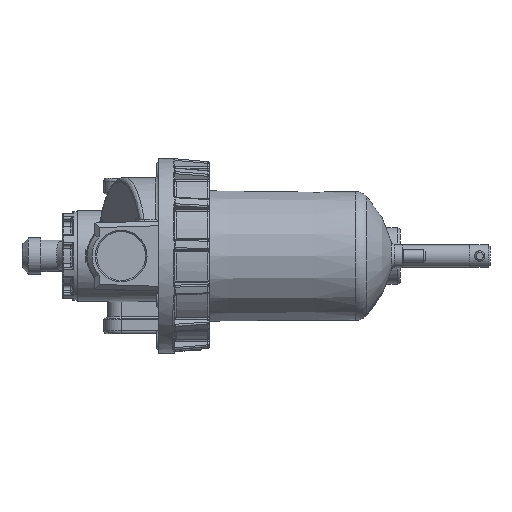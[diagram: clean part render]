
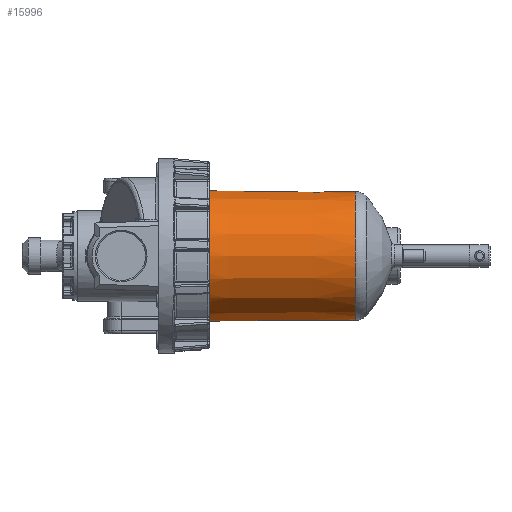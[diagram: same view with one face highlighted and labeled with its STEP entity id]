
A CAD part, left-side view. The second image highlights one B-rep face of the part: STEP entity #15996.
In plain terms, the highlighted conical face has half-angle 0.512 degrees and reference radius 41.5 mm.
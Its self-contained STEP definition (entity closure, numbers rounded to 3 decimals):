
#5331=CARTESIAN_POINT('',(42.0,112.01,0.0));
#5332=VERTEX_POINT('',#5331);
#5333=CARTESIAN_POINT('',(0.,112.01,0.0));
#5334=DIRECTION('',(0.0,-1.0,0.0));
#5335=DIRECTION('',(1.0,0.0,0.0));
#5336=AXIS2_PLACEMENT_3D('',#5333,#5334,#5335);
#5337=CIRCLE('',#5336,42.);
#5338=EDGE_CURVE('',#5332,#5332,#5337,.T.);
#15806=CARTESIAN_POINT('',(41.071,84.01,-7.5));
#15807=VERTEX_POINT('',#15806);
#15816=CARTESIAN_POINT('',(41.071,84.01,7.5));
#15817=VERTEX_POINT('',#15816);
#15818=CARTESIAN_POINT('',(41.071,84.01,7.5));
#15819=CARTESIAN_POINT('',(41.078,84.761,7.5));
#15820=CARTESIAN_POINT('',(41.107,85.551,7.383));
#15821=CARTESIAN_POINT('',(41.156,86.306,7.14));
#15822=CARTESIAN_POINT('',(41.206,87.075,6.893));
#15823=CARTESIAN_POINT('',(41.276,87.809,6.515));
#15824=CARTESIAN_POINT('',(41.35,88.447,6.047));
#15825=CARTESIAN_POINT('',(41.379,88.701,5.861));
#15826=CARTESIAN_POINT('',(41.409,88.939,5.661));
#15827=CARTESIAN_POINT('',(41.439,89.16,5.452));
#15828=CARTESIAN_POINT('',(41.465,89.355,5.268));
#15829=CARTESIAN_POINT('',(41.491,89.539,5.076));
#15830=CARTESIAN_POINT('',(41.516,89.715,4.868));
#15831=CARTESIAN_POINT('',(41.59,90.219,4.278));
#15832=CARTESIAN_POINT('',(41.662,90.649,3.582));
#15833=CARTESIAN_POINT('',(41.716,90.953,2.836));
#15834=CARTESIAN_POINT('',(41.76,91.206,2.219));
#15835=CARTESIAN_POINT('',(41.791,91.374,1.566));
#15836=CARTESIAN_POINT('',(41.806,91.454,0.919));
#15837=CARTESIAN_POINT('',(41.813,91.49,0.624));
#15838=CARTESIAN_POINT('',(41.817,91.509,0.329));
#15839=CARTESIAN_POINT('',(41.817,91.51,0.041));
#15840=CARTESIAN_POINT('',(41.817,91.512,-0.242));
#15841=CARTESIAN_POINT('',(41.815,91.497,-0.529));
#15842=CARTESIAN_POINT('',(41.809,91.466,-0.818));
#15843=CARTESIAN_POINT('',(41.793,91.38,-1.593));
#15844=CARTESIAN_POINT('',(41.753,91.167,-2.38));
#15845=CARTESIAN_POINT('',(41.695,90.836,-3.109));
#15846=CARTESIAN_POINT('',(41.638,90.504,-3.836));
#15847=CARTESIAN_POINT('',(41.564,90.054,-4.507));
#15848=CARTESIAN_POINT('',(41.491,89.538,-5.069));
#15849=CARTESIAN_POINT('',(41.463,89.34,-5.284));
#15850=CARTESIAN_POINT('',(41.435,89.135,-5.484));
#15851=CARTESIAN_POINT('',(41.406,88.912,-5.676));
#15852=CARTESIAN_POINT('',(41.332,88.326,-6.183));
#15853=CARTESIAN_POINT('',(41.256,87.634,-6.616));
#15854=CARTESIAN_POINT('',(41.198,86.89,-6.925));
#15855=CARTESIAN_POINT('',(41.14,86.156,-7.23));
#15856=CARTESIAN_POINT('',(41.099,85.371,-7.415));
#15857=CARTESIAN_POINT('',(41.081,84.605,-7.476));
#15858=CARTESIAN_POINT('',(41.076,84.405,-7.492));
#15859=CARTESIAN_POINT('',(41.073,84.206,-7.5));
#15860=CARTESIAN_POINT('',(41.071,84.01,-7.5));
#15861=B_SPLINE_CURVE_WITH_KNOTS('',3,(#15818,#15819,#15820,#15821,#15822,#15823,#15824,#15825,#15826,#15827,#15828,#15829,#15830,#15831,#15832,#15833,#15834,#15835,#15836,#15837,#15838,#15839,#15840,#15841,#15842,#15843,#15844,#15845,#15846,#15847,#15848,#15849,#15850,#15851,#15852,#15853,#15854,#15855,#15856,#15857,#15858,#15859,#15860),.UNSPECIFIED.,.F.,.U.,(4,3,3,3,3,3,3,3,3,3,3,3,3,3,4),(0.001,0.226,0.456,0.546,0.627,0.855,1.044,1.13,1.215,1.442,1.668,1.755,1.984,2.209,2.267),.UNSPECIFIED.);
#15862=EDGE_CURVE('',#15817,#15807,#15861,.T.);
#15898=CARTESIAN_POINT('',(0.,56.01,0.0));
#15899=DIRECTION('',(0.,1.0,0.0));
#15900=DIRECTION('',(1.0,0.0,0.0));
#15901=AXIS2_PLACEMENT_3D('',#15898,#15899,#15900);
#15902=CONICAL_SURFACE('',#15901,41.5,0.512);
#15903=ORIENTED_EDGE('',*,*,#5338,.T.);
#15904=EDGE_LOOP('',(#15903));
#15905=FACE_OUTER_BOUND('',#15904,.T.);
#15906=ORIENTED_EDGE('',*,*,#15862,.T.);
#15907=CARTESIAN_POINT('',(40.998,76.01,-7.5));
#15908=VERTEX_POINT('',#15907);
#15909=CARTESIAN_POINT('',(41.071,84.01,-7.5));
#15910=DIRECTION('',(-0.009,-1.,0.));
#15911=VECTOR('',#15910,8.);
#15912=LINE('',#15909,#15911);
#15913=EDGE_CURVE('',#15807,#15908,#15912,.T.);
#15914=ORIENTED_EDGE('',*,*,#15913,.T.);
#15915=CARTESIAN_POINT('',(40.463,17.01,-7.5));
#15916=VERTEX_POINT('',#15915);
#15917=CARTESIAN_POINT('',(40.998,76.01,-7.5));
#15918=CARTESIAN_POINT('',(40.729,46.316,-7.5));
#15919=CARTESIAN_POINT('',(40.463,17.01,-7.5));
#15927=(BOUNDED_CURVE()B_SPLINE_CURVE(2,(#15917,#15918,#15919),.UNSPECIFIED.,.F.,.U.)B_SPLINE_CURVE_WITH_KNOTS((3,3),(0.0,5.9),.UNSPECIFIED.)CURVE()GEOMETRIC_REPRESENTATION_ITEM()RATIONAL_B_SPLINE_CURVE((1.0,1.,1.0))REPRESENTATION_ITEM(''));
#15928=EDGE_CURVE('',#15908,#15916,#15927,.T.);
#15929=ORIENTED_EDGE('',*,*,#15928,.T.);
#15930=CARTESIAN_POINT('',(40.087,17.01,-9.3));
#15931=VERTEX_POINT('',#15930);
#15932=CARTESIAN_POINT('',(0.,17.01,0.0));
#15933=DIRECTION('',(0.0,1.0,0.0));
#15934=DIRECTION('',(1.0,0.0,0.0));
#15935=AXIS2_PLACEMENT_3D('',#15932,#15933,#15934);
#15936=CIRCLE('',#15935,41.152);
#15937=EDGE_CURVE('',#15916,#15931,#15936,.T.);
#15938=ORIENTED_EDGE('',*,*,#15937,.T.);
#15939=CARTESIAN_POINT('',(39.968,4.028,-9.3));
#15940=VERTEX_POINT('',#15939);
#15941=CARTESIAN_POINT('',(40.087,17.01,-9.3));
#15942=DIRECTION('',(-0.009,-1.,0.));
#15943=VECTOR('',#15942,12.983);
#15944=LINE('',#15941,#15943);
#15945=EDGE_CURVE('',#15931,#15940,#15944,.T.);
#15946=ORIENTED_EDGE('',*,*,#15945,.T.);
#15947=CARTESIAN_POINT('',(39.873,4.028,9.7));
#15948=VERTEX_POINT('',#15947);
#15949=CARTESIAN_POINT('',(0.,4.028,0.));
#15950=DIRECTION('',(0.0,-1.0,0.0));
#15951=DIRECTION('',(-1.0,0.0,0.0));
#15952=AXIS2_PLACEMENT_3D('',#15949,#15950,#15951);
#15953=CIRCLE('',#15952,41.036);
#15954=EDGE_CURVE('',#15948,#15940,#15953,.T.);
#15955=ORIENTED_EDGE('',*,*,#15954,.F.);
#15956=CARTESIAN_POINT('',(39.992,17.01,9.7));
#15957=VERTEX_POINT('',#15956);
#15958=CARTESIAN_POINT('',(39.873,4.028,9.7));
#15959=DIRECTION('',(0.009,1.,0.0));
#15960=VECTOR('',#15959,12.983);
#15961=LINE('',#15958,#15960);
#15962=EDGE_CURVE('',#15948,#15957,#15961,.T.);
#15963=ORIENTED_EDGE('',*,*,#15962,.T.);
#15964=CARTESIAN_POINT('',(40.463,17.01,7.5));
#15965=VERTEX_POINT('',#15964);
#15966=CARTESIAN_POINT('',(0.,17.01,0.0));
#15967=DIRECTION('',(0.0,1.0,0.0));
#15968=DIRECTION('',(1.0,0.0,0.0));
#15969=AXIS2_PLACEMENT_3D('',#15966,#15967,#15968);
#15970=CIRCLE('',#15969,41.152);
#15971=EDGE_CURVE('',#15957,#15965,#15970,.T.);
#15972=ORIENTED_EDGE('',*,*,#15971,.T.);
#15973=CARTESIAN_POINT('',(40.998,76.01,7.5));
#15974=VERTEX_POINT('',#15973);
#15975=CARTESIAN_POINT('',(40.463,17.01,7.5));
#15976=CARTESIAN_POINT('',(40.729,46.316,7.5));
#15977=CARTESIAN_POINT('',(40.998,76.01,7.5));
#15985=(BOUNDED_CURVE()B_SPLINE_CURVE(2,(#15975,#15976,#15977),.UNSPECIFIED.,.F.,.U.)B_SPLINE_CURVE_WITH_KNOTS((3,3),(0.0,5.9),.UNSPECIFIED.)CURVE()GEOMETRIC_REPRESENTATION_ITEM()RATIONAL_B_SPLINE_CURVE((1.0,1.,1.0))REPRESENTATION_ITEM(''));
#15986=EDGE_CURVE('',#15965,#15974,#15985,.T.);
#15987=ORIENTED_EDGE('',*,*,#15986,.T.);
#15988=CARTESIAN_POINT('',(40.998,76.01,7.5));
#15989=DIRECTION('',(0.009,1.,0.));
#15990=VECTOR('',#15989,8.);
#15991=LINE('',#15988,#15990);
#15992=EDGE_CURVE('',#15974,#15817,#15991,.T.);
#15993=ORIENTED_EDGE('',*,*,#15992,.T.);
#15994=EDGE_LOOP('',(#15906,#15914,#15929,#15938,#15946,#15955,#15963,#15972,#15987,#15993));
#15995=FACE_BOUND('',#15994,.T.);
#15996=ADVANCED_FACE('',(#15905,#15995),#15902,.T.);
